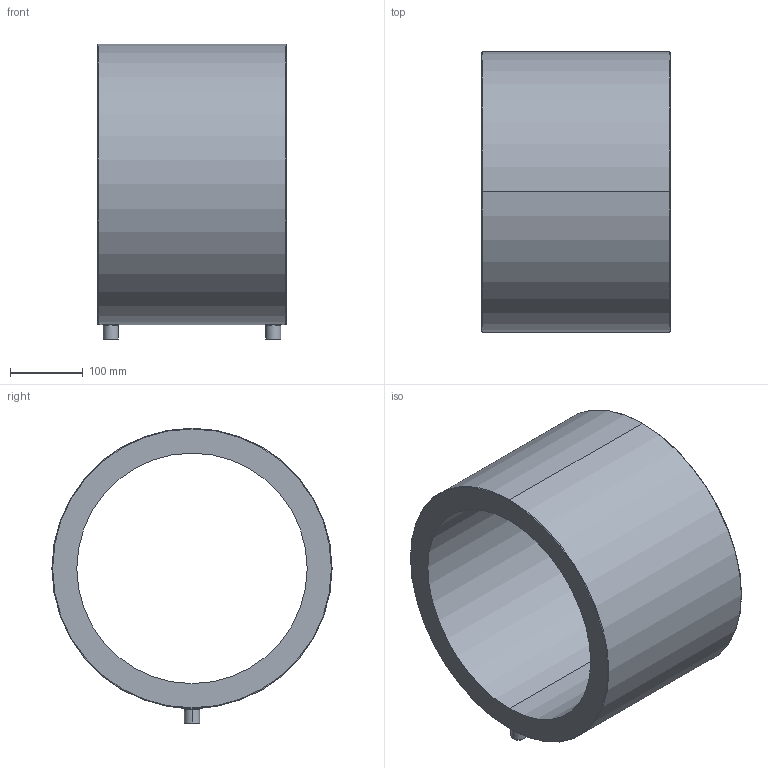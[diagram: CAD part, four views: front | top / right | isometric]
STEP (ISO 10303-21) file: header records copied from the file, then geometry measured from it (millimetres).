
FILE_DESCRIPTION (( 'STEP AP214' ), '1' );
FILE_NAME ('315mm coupler.STEP', '2020-01-22T13:48:24', ( '' ), ( '' ), 'SwSTEP 2.0', 'SolidWorks 2019', '' );
FILE_SCHEMA (( 'AUTOMOTIVE_DESIGN' ));
Length unit declared in the file: millimetre
Products named in the file (1): 315mm coupler
Bounding box: 260 x 386 x 407 mm (x, y, z)
Volume: 9877150.3 mm3; surface area: 653602.1 mm2
Topology: 1 solids, 1 shells, 58 faces, 126 edges, 76 vertices
Faces by surface type: torus 20, cylinder 20, plane 10, bspline 4, cone 4
Entity records: 2560 total; most frequent: CARTESIAN_POINT 1229, DIRECTION 304, ORIENTED_EDGE 252, AXIS2_PLACEMENT_3D 139, EDGE_CURVE 126, CIRCLE 84, VERTEX_POINT 76, EDGE_LOOP 66
